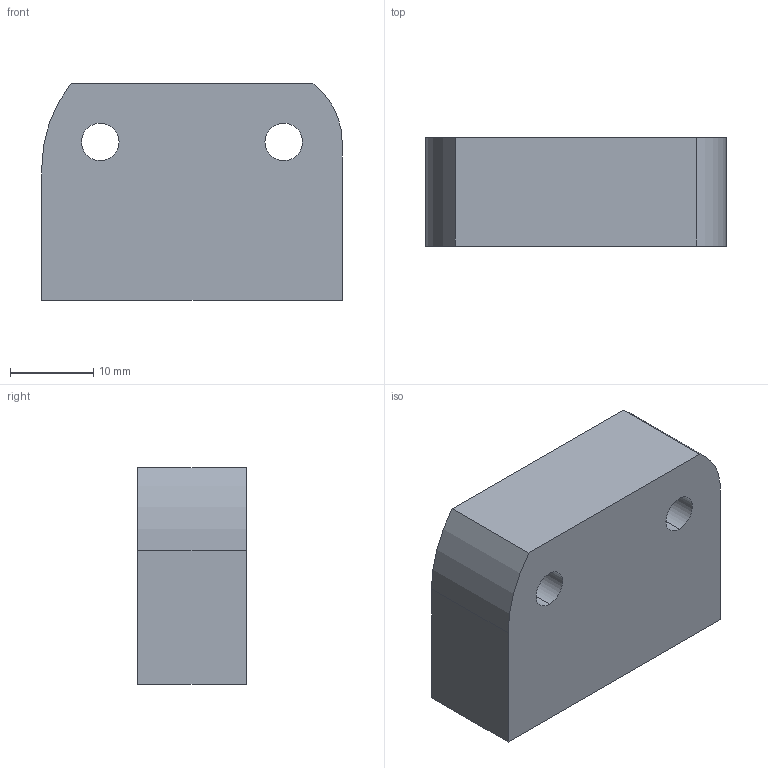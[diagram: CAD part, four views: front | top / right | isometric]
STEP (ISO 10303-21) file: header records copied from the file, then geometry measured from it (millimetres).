
FILE_DESCRIPTION (( 'STEP AP203' ), '1' );
FILE_NAME ('Pizzato_SM_Axxx.step', '2009-01-30T00:43:19', ( 'Pizzato Elettrica Srl' ), ( '' ), 'SwSTEP 2.0', 'SolidWorks 2008', '' );
FILE_SCHEMA (( 'CONFIG_CONTROL_DESIGN' ));
Length unit declared in the file: millimetre
Products named in the file (1): Pizzato_SM_Axxx
Bounding box: 36 x 13 x 26 mm (x, y, z)
Volume: 11215.9 mm3; surface area: 3793.2 mm2
Topology: 1 solids, 1 shells, 171 faces, 453 edges, 302 vertices
Faces by surface type: plane 92, bspline 69, cylinder 10
Entity records: 8702 total; most frequent: CARTESIAN_POINT 4820, ORIENTED_EDGE 906, DIRECTION 541, EDGE_CURVE 453, VERTEX_POINT 302, VECTOR 295, LINE 295, EDGE_LOOP 193
